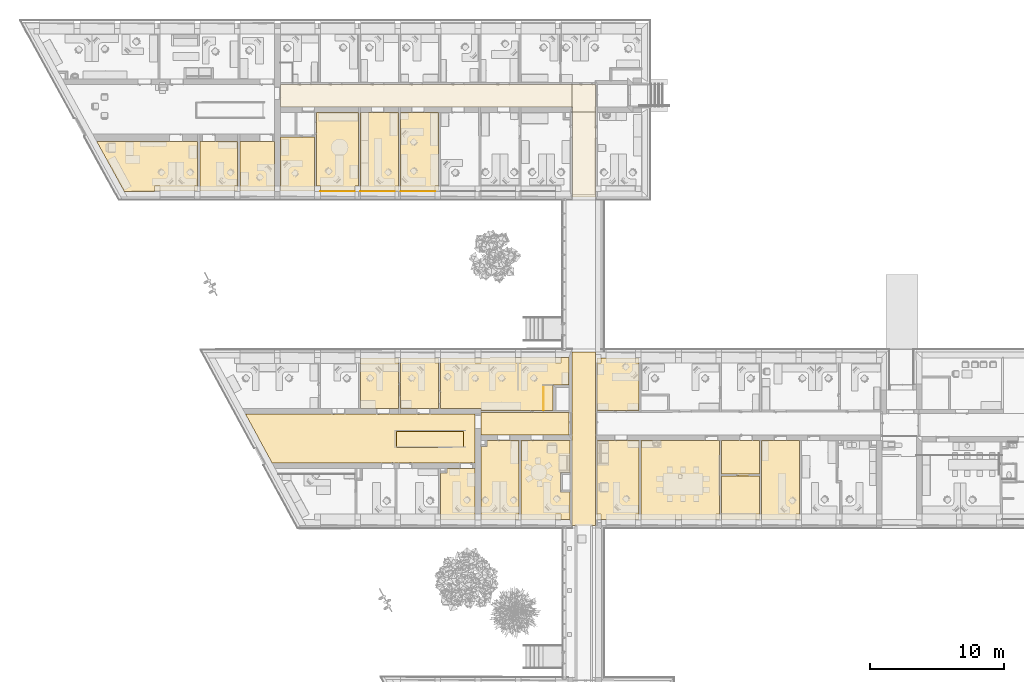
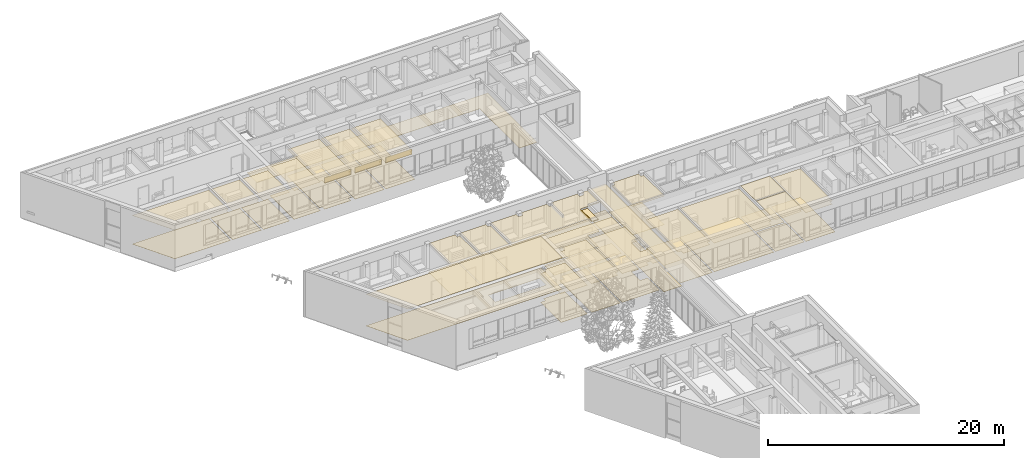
# One storey, part 106 of 194: 50 coverings, 1 opening.
"""IFC2X3 building model written with IfcOpenShell, lengths in millimetres."""

import ifcopenshell
import ifcopenshell.guid

model = None  # the IFC model being written
_history = None  # IfcOwnerHistory: only IFC2X3 demands one
_inside = {}  # id of a spatial element -> (the spatial element, [elements in it])
_under = {}  # id of a project, library or spatial element -> (it, [spatial elements below it])
_declared = {}  # id of a project -> (the project, [libraries it declares])
_typed = {}  # id of a type object -> (the type object, [elements of that type])
_made_of = {}  # id of a material, layer set ... -> (it, [elements and type objects made of it])


def new_model(schema):
    """Start an empty IFC model of exactly this schema.

    Asked for "IFC4X3", IfcOpenShell would pick the latest addendum, in which some entities
    have other attributes; the version numbers below select the first issue.
    IFC2X3 requires an IfcOwnerHistory on every rooted entity: one is made here for all.
    """
    global model, _history
    if schema == "IFC4X3":
        model = ifcopenshell.file(schema_version=(4, 3, 0, 0))
    else:
        model = ifcopenshell.file(schema=schema)
    _inside.clear()
    _under.clear()
    _declared.clear()
    _typed.clear()
    _made_of.clear()
    _history = None
    if model.schema == "IFC2X3":
        org = make("IfcOrganization", Name="unknown")
        user = make(
            "IfcPersonAndOrganization",
            ThePerson=make("IfcPerson", FamilyName="unknown"),
            TheOrganization=org,
        )
        app = make(
            "IfcApplication",
            ApplicationDeveloper=org,
            Version="unknown",
            ApplicationFullName="unknown",
            ApplicationIdentifier="unknown",
        )
        _history = make(
            "IfcOwnerHistory",
            OwningUser=user,
            OwningApplication=app,
            ChangeAction="ADDED",
            CreationDate=0,
        )
    return model


def make(cls, **values):
    """One entity of the class cls with the attributes given. An attribute that is None is left unset."""
    return model.create_entity(
        cls, **{name: value for name, value in values.items() if value is not None}
    )


def entity(cls, *values):
    """Any entity or typed value of the class cls, its attributes in the order of the schema. None: left unset."""
    e = model.create_entity(cls)
    for i, value in enumerate(values):
        if value is not None:
            e[i] = value
    return e


def rooted(cls, **values):
    """An entity with a GlobalId (a new one), such as an element, a storey or a relation."""
    return make(cls, GlobalId=ifcopenshell.guid.new(), OwnerHistory=_history, **values)


def si_unit(unit_type, name, prefix=None):
    """IfcSIUnit, for example si_unit("LENGTHUNIT", "METRE", prefix="MILLI")."""
    return make("IfcSIUnit", UnitType=unit_type, Prefix=prefix, Name=name)


def converted_unit(unit_type, name, factor, base, dimensions=None, offset=None):
    """IfcConversionBasedUnit, such as the inch: factor (a typed value) times the base unit."""
    return make(
        "IfcConversionBasedUnit"
        if offset is None
        else "IfcConversionBasedUnitWithOffset",
        ConversionOffset=offset,
        Dimensions=None
        if dimensions is None
        else entity("IfcDimensionalExponents", *dimensions),
        UnitType=unit_type,
        Name=name,
        ConversionFactor=make(
            "IfcMeasureWithUnit", ValueComponent=factor, UnitComponent=base
        ),
    )


def derived_unit(unit_type, elements):
    """IfcDerivedUnit: a product of units, each with its exponent."""
    return make(
        "IfcDerivedUnit",
        Elements=[
            make("IfcDerivedUnitElement", Unit=unit, Exponent=power)
            for unit, power in elements
        ],
        UnitType=unit_type,
    )


def money_unit(currency):
    """IfcMonetaryUnit."""
    return make("IfcMonetaryUnit", Currency=currency)


def assignment(units):
    """IfcUnitAssignment: the units of a project."""
    return None if units is None else make("IfcUnitAssignment", Units=units)


def point(xyz):
    """IfcCartesianPoint."""
    return None if xyz is None else make("IfcCartesianPoint", Coordinates=xyz)


def direction(xyz):
    """IfcDirection."""
    return None if xyz is None else make("IfcDirection", DirectionRatios=xyz)


def frame(location, z_axis=None, x_axis=None):
    """IfcAxis2Placement3D, a coordinate frame: its origin and axes. An axis left out is left unset."""
    return make(
        "IfcAxis2Placement3D",
        Location=point(location),
        Axis=direction(z_axis),
        RefDirection=direction(x_axis),
    )


def origin_with_axes():
    """The frame at (0, 0, 0) with the z axis (0, 0, 1) and the x axis (1, 0, 0) written out."""
    return frame((0.0, 0.0, 0.0), z_axis=(0.0, 0.0, 1.0), x_axis=(1.0, 0.0, 0.0))


def place(relative_to, where):
    """IfcLocalPlacement: puts the frame where relative to a parent placement (None: the world)."""
    return make(
        "IfcLocalPlacement", PlacementRelTo=relative_to, RelativePlacement=where
    )


def context(
    kind, dimensions, precision=None, world=None, true_north=None, identifier=None
):
    """IfcGeometricRepresentationContext, for example the 3D "Model" context."""
    return make(
        "IfcGeometricRepresentationContext",
        ContextIdentifier=identifier,
        ContextType=kind,
        CoordinateSpaceDimension=dimensions,
        Precision=precision,
        WorldCoordinateSystem=world,
        TrueNorth=true_north,
    )


def subcontext(parent, identifier, kind, view, scale=None):
    """IfcGeometricRepresentationSubContext, for example "Body" below "Model"."""
    return make(
        "IfcGeometricRepresentationSubContext",
        ContextIdentifier=identifier,
        ContextType=kind,
        ParentContext=parent,
        TargetScale=scale,
        TargetView=view,
    )


def project(units=None, contexts=None):
    """IfcProject with its units and contexts."""
    return rooted(
        "IfcProject",
        Name="project",
        RepresentationContexts=contexts,
        UnitsInContext=assignment(units),
    )


def spatial(cls, under=None, at=None, **own):
    """A site, building, storey or space (cls), placed at a placement, below another one or the project."""
    s = rooted(cls, ObjectPlacement=at, **own)
    if under is not None:
        _under.setdefault(under.id(), (under, []))[1].append(s)
    return s


def polyline(points):
    """IfcPolyline through the points."""
    return make("IfcPolyline", Points=[point(p) for p in points])


def outline(outer, holes=None, kind="AREA"):
    """IfcArbitraryClosedProfileDef: a profile drawn as a closed curve; with holes, ...WithVoids."""
    if holes is None:
        return make("IfcArbitraryClosedProfileDef", ProfileType=kind, OuterCurve=outer)
    return make(
        "IfcArbitraryProfileDefWithVoids",
        ProfileType=kind,
        OuterCurve=outer,
        InnerCurves=holes,
    )


def extrude(swept, where, along, depth):
    """IfcExtrudedAreaSolid: the profile swept, set in the frame where, extruded along a direction by depth."""
    return make(
        "IfcExtrudedAreaSolid",
        SweptArea=swept,
        Position=where,
        ExtrudedDirection=direction(along),
        Depth=depth,
    )


def shape(context_of_items, identifier, shape_type, items):
    """IfcShapeRepresentation: the items that make up one representation, for example the "Body"."""
    return make(
        "IfcShapeRepresentation",
        ContextOfItems=context_of_items,
        RepresentationIdentifier=identifier,
        RepresentationType=shape_type,
        Items=items,
    )


def material(Name=None, Category=None):
    """IfcMaterial."""
    return make("IfcMaterial", Name=Name, Category=Category)


def made_of(thing, what):
    """Note that an element or type object is made of a material, layer set ...; save() writes the relation."""
    if what is not None:
        _made_of.setdefault(what.id(), (what, []))[1].append(thing)
    return thing


def type_object(cls, material=None, **own):
    """A type object (cls), such as IfcWallType, which elements share."""
    return made_of(rooted(cls, **own), material)


def element(
    cls,
    number,
    at=None,
    inside=None,
    cuts=None,
    type_object=None,
    material=None,
    context=None,
    identifier="Body",
    shape_type=None,
    held_by="IfcProductDefinitionShape",
    body=None,
    shapes=None,
    **own,
):
    """One element of the class cls, such as IfcWall. Its Tag is "e" and its number.

    at: its placement. inside: the storey or other place that contains it. cuts: it is an
    opening in that element (IfcRelVoidsElement). A single representation is given by context,
    identifier, shape_type and body (its items); several are given by shapes. held_by: the class
    of the entity that holds the representations. save() writes the other relations.
    """
    e = rooted(cls, Tag="e%d" % number, ObjectPlacement=at, **own)
    if body is not None:
        shapes = [shape(context, identifier, shape_type, body)]
    if shapes is not None:
        e.Representation = make(held_by, Representations=shapes)
    if inside is not None:
        _inside.setdefault(inside.id(), (inside, []))[1].append(e)
    if cuts is not None:
        rooted(
            "IfcRelVoidsElement", RelatingBuildingElement=cuts, RelatedOpeningElement=e
        )
    if type_object is not None:
        _typed.setdefault(type_object.id(), (type_object, []))[1].append(e)
    return made_of(e, material)


def aggregate(whole, parts):
    """IfcRelAggregates: a whole, such as a stair, and the parts it consists of."""
    return rooted("IfcRelAggregates", RelatingObject=whole, RelatedObjects=parts)


def save(model, path):
    """Write the relations noted so far, then the file.

    IfcRelAggregates (storeys below a building ...), IfcRelContainedInSpatialStructure (elements
    in a storey), IfcRelDefinesByType, IfcRelAssociatesMaterial and IfcRelDeclares: one each for
    every whole, place, type object, material and project.
    """
    for whole, parts in _under.values():
        aggregate(whole, parts)
    for where, things in _inside.values():
        rooted(
            "IfcRelContainedInSpatialStructure",
            RelatedElements=things,
            RelatingStructure=where,
        )
    for kind, things in _typed.values():
        rooted("IfcRelDefinesByType", RelatedObjects=things, RelatingType=kind)
    for what, things in _made_of.values():
        rooted("IfcRelAssociatesMaterial", RelatedObjects=things, RelatingMaterial=what)
    for by, libraries in _declared.values():
        rooted("IfcRelDeclares", RelatingContext=by, RelatedDefinitions=libraries)
    model.write(path)


model = new_model("IFC2X3")

# Units and contexts
model_context = context("Model", 3, precision=1e-05, world=origin_with_axes(), true_north=direction((0.0, 1.0)))
body_context = subcontext(model_context, "Body", "Model", "MODEL_VIEW")
ifc_project = project(units=[si_unit("LENGTHUNIT", "METRE", prefix="MILLI"), si_unit("AREAUNIT", "SQUARE_METRE"), si_unit("VOLUMEUNIT", "CUBIC_METRE"), converted_unit("PLANEANGLEUNIT", "DEGREE", entity("IfcPlaneAngleMeasure", 0.0174532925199), si_unit("PLANEANGLEUNIT", "RADIAN"), dimensions=[0, 0, 0, 0, 0, 0, 0]), si_unit("SOLIDANGLEUNIT", "STERADIAN"), money_unit("EUR"), converted_unit("TIMEUNIT", "Year", entity("IfcTimeMeasure", 31556926.0), si_unit("TIMEUNIT", "SECOND"), dimensions=[0, 0, 1, 0, 0, 0, 0]), si_unit("MASSUNIT", "GRAM", prefix="KILO"), si_unit("THERMODYNAMICTEMPERATUREUNIT", "DEGREE_CELSIUS"), si_unit("LUMINOUSINTENSITYUNIT", "LUMEN"), si_unit("ENERGYUNIT", "JOULE", prefix="MEGA"), derived_unit("THERMALCONDUCTANCEUNIT", [(si_unit("POWERUNIT", "WATT"), 1), (si_unit("LENGTHUNIT", "METRE"), -1), (si_unit("THERMODYNAMICTEMPERATUREUNIT", "KELVIN"), -1)]), derived_unit("SPECIFICHEATCAPACITYUNIT", [(si_unit("ENERGYUNIT", "JOULE"), 1), (si_unit("MASSUNIT", "GRAM", prefix="KILO"), -1), (si_unit("THERMODYNAMICTEMPERATUREUNIT", "KELVIN"), -1)]), derived_unit("MASSDENSITYUNIT", [(si_unit("MASSUNIT", "GRAM", prefix="KILO"), 1), (si_unit("VOLUMEUNIT", "CUBIC_METRE"), -1)])], contexts=[model_context])

# Site, building, storey
site_placement = place(None, origin_with_axes())
site = spatial("IfcSite", under=ifc_project, at=site_placement, Name="Site", CompositionType="ELEMENT")
building_placement = place(site_placement, origin_with_axes())
building = spatial("IfcBuilding", under=site, at=building_placement, Name="Building", CompositionType="ELEMENT")
storey_placement = place(building_placement, frame((0.0, 0.0, 3000.0), z_axis=(0.0, 0.0, 1.0), x_axis=(1.0, 0.0, 0.0)))
storey = spatial("IfcBuildingStorey", under=building, at=storey_placement, Name="2 KORRUS", CompositionType="ELEMENT", Elevation=3000.0)

# Coverings
ifc_material_1 = material(Name="Värv")
covering_type_1 = type_object("IfcCoveringType", Name="L-3", PredefinedType="CLADDING")
covering_1_placement = place(storey_placement, frame((15544.3591021, 39014.3351234, 3250.0), z_axis=(0.0, 0.0, 1.0), x_axis=(1.0, 0.0, 0.0)))
element("IfcCovering", 1, at=covering_1_placement, inside=storey, type_object=covering_type_1, material=ifc_material_1, Name="Konstruktiivne lagi lauspahtel, värvitud", PredefinedType="CLADDING", context=body_context, shape_type="SweptSolid", body=[
    extrude(outline(polyline([(0.0, 0.0), (15191.0096542, 0.0), (15191.0096542, 3655.87204868), (-1979.76658338, 3642.18206469), (0.0, 0.0)])), origin_with_axes(), (0.0, 0.0, 1.0), 1.0),
])
covering_type_2 = type_object("IfcCoveringType", Name="L-5", PredefinedType="CLADDING")
covering_2_placement = place(storey_placement, frame((49156.85302, 34782.3381612, 3250.0), z_axis=(0.0, 0.0, 1.0), x_axis=(1.0, 0.0, 0.0)))
element("IfcCovering", 2, at=covering_2_placement, inside=storey, type_object=covering_type_2, material=ifc_material_1, Name="Konstruktiivne lagi kaetud tolmutõkkega ja värvitud", PredefinedType="CLADDING", context=body_context, shape_type="SweptSolid", body=[
    extrude(outline(polyline([(0.0, 0.0), (2577.78234245, 0.219781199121), (2577.74832166, 399.24470683), (2848.32124632, 399.29792926), (2848.32124632, 3249.28610862), (0.0, 3249.28610862), (0.0, 0.0)])), origin_with_axes(), (0.0, 0.0, 1.0), 1.0),
])
covering_3_placement = place(storey_placement, frame((52005.1742663, 38031.6242698, 3250.0), z_axis=(0.0, 0.0, 1.0), x_axis=(1.0, 0.0, 0.0)))
element("IfcCovering", 3, at=covering_3_placement, inside=storey, type_object=covering_type_2, material=ifc_material_1, Name="Konstruktiivne lagi kaetud tolmutõkkega ja värvitud", PredefinedType="CLADDING", context=body_context, shape_type="SweptSolid", body=[
    extrude(outline(polyline([(0.0, 0.0), (0.0, 2653.11876868), (-543.213405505, 2653.11876868), (-543.212831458, 2649.73164058), (-2848.32124632, 2649.99996692), (-2848.32124632, 0.0), (0.0, 0.0)])), origin_with_axes(), (0.0, 0.0, 1.0), 1.0),
])
ifc_material_2 = material(Name="Betoon - Ol.Olev konstruktsioon")
covering_type_3 = type_object("IfcCoveringType", Name="P-3", PredefinedType="NOTDEFINED")
covering_4_placement = place(storey_placement, frame((49155.1743177, 34782.5810042, 0.0), z_axis=(0.0, 0.0, 1.0), x_axis=(1.0, 0.0, 0.0)))
element("IfcCovering", 4, at=covering_4_placement, inside=storey, type_object=covering_type_3, material=ifc_material_2, Name="Betoon - Ol.Olev konstruktsioon", PredefinedType="NOTDEFINED", context=body_context, shape_type="SweptSolid", body=[
    extrude(outline(polyline([(0.0, 0.0), (2850.0, 0.0), (2850.0, 3249.96722732), (0.0, 3249.96722732), (0.0, 0.0)])), frame((0.0, 0.0, -2.0), z_axis=(0.0, 0.0, 1.0), x_axis=(1.0, 0.0, 0.0)), (0.0, 0.0, 1.0), 2.0),
])
covering_5_placement = place(storey_placement, frame((49155.1743177, 38181.6242698, 0.0), z_axis=(0.0, 0.0, 1.0), x_axis=(1.0, 0.0, 0.0)))
element("IfcCovering", 5, at=covering_5_placement, inside=storey, type_object=covering_type_3, material=ifc_material_2, Name="Betoon - Ol.Olev konstruktsioon", PredefinedType="NOTDEFINED", context=body_context, shape_type="SweptSolid", body=[
    extrude(outline(polyline([(0.0, 0.0), (2850.0, 0.0), (2850.0, 2500.0), (0.0, 2500.0), (0.0, 0.0)])), frame((0.0, 0.0, -2.0), z_axis=(0.0, 0.0, 1.0), x_axis=(1.0, 0.0, 0.0)), (0.0, 0.0, 1.0), 2.0),
])
ifc_material_3 = material(Name="Kipsplaat")
covering_type_4 = type_object("IfcCoveringType", Name="L-4", PredefinedType="CEILING")
covering_6_placement = place(storey_placement, frame((37983.8520141, 47321.3064056, 2700.0), z_axis=(0.0, 0.0, 1.0), x_axis=(1.0, 0.0, 0.0)))
element("IfcCovering", 6, at=covering_6_placement, inside=storey, type_object=covering_type_4, material=ifc_material_3, Name="Ripplagi", PredefinedType="CEILING", context=body_context, shape_type="SweptSolid", body=[
    extrude(outline(polyline([(0.0, 0.0), (0.0, -12970.0619024), (1751.32228266, -12970.0619024), (1751.32228266, 0.0), (0.0, 0.0)])), origin_with_axes(), (0.0, 0.0, 1.0), 15.0),
])
covering_7_placement = place(storey_placement, frame((31155.3687563, 41101.6242698, 2700.0), z_axis=(0.0, 0.0, 1.0), x_axis=(1.0, 0.0, 0.0)))
element("IfcCovering", 7, at=covering_7_placement, inside=storey, type_object=covering_type_4, material=ifc_material_3, Name="Ripplagi", PredefinedType="CEILING", context=body_context, shape_type="SweptSolid", body=[
    extrude(outline(polyline([(0.0, 0.0), (6578.4832578, 0.0), (6578.4832578, 1698.92874086), (0.0, 1698.92874086), (0.0, 0.0)])), origin_with_axes(), (0.0, 0.0, 1.0), 15.0),
])
covering_type_5 = type_object("IfcCoveringType", Name="P-2", PredefinedType="NOTDEFINED")
covering_8_placement = place(storey_placement, frame((18884.303544, 59737.905051, 0.0), z_axis=(0.0, 0.0, 1.0), x_axis=(1.0, 0.0, 0.0)))
element("IfcCovering", 8, at=covering_8_placement, inside=storey, type_object=covering_type_5, material=ifc_material_2, Name="Betoon - Ol.Olev konstruktsioon", PredefinedType="NOTDEFINED", context=body_context, shape_type="SweptSolid", body=[
    extrude(outline(polyline([(0.0, 0.0), (267.831566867, 0.0), (267.831566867, -401.539654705), (2849.99949144, -401.132490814), (2849.99949144, 0.360075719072), (3123.41984658, 0.360075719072), (3120.0579437, 5472.12330483), (0.303009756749, 5472.12330483), (0.0, 0.0)])), frame((0.0, 0.0, -20.0), z_axis=(0.0, 0.0, 1.0), x_axis=(1.0, 0.0, 0.0)), (0.0, 0.0, 1.0), 20.0),
])
covering_9_placement = place(storey_placement, frame((52155.1743177, 34782.5579891, 0.0), z_axis=(0.0, 0.0, 1.0), x_axis=(1.0, 0.0, 0.0)))
element("IfcCovering", 9, at=covering_9_placement, inside=storey, type_object=covering_type_5, material=ifc_material_2, Name="Betoon - Ol.Olev konstruktsioon", PredefinedType="NOTDEFINED", context=body_context, shape_type="SweptSolid", body=[
    extrude(outline(polyline([(0.0, 0.0), (2850.43213599, 0.0), (2850.43213599, 5899.06628073), (0.0, 5899.06628073), (0.0, 0.0)])), frame((0.0, 0.0, -20.0), z_axis=(0.0, 0.0, 1.0), x_axis=(1.0, 0.0, 0.0)), (0.0, 0.0, 1.0), 20.0),
])
covering_10_placement = place(storey_placement, frame((39855.1743177, 34781.8138135, 0.0), z_axis=(0.0, 0.0, 1.0), x_axis=(1.0, 0.0, 0.0)))
element("IfcCovering", 10, at=covering_10_placement, inside=storey, type_object=covering_type_5, material=ifc_material_2, Name="Betoon - Ol.Olev konstruktsioon", PredefinedType="NOTDEFINED", context=body_context, shape_type="SweptSolid", body=[
    extrude(outline(polyline([(0.0, 0.0), (3150.04571867, 0.0), (3150.04571867, 5899.81045634), (0.0, 5899.81045634), (0.0, 0.0)])), frame((0.0, 0.0, -20.0), z_axis=(0.0, 0.0, 1.0), x_axis=(1.0, 0.0, 0.0)), (0.0, 0.0, 1.0), 20.0),
])
covering_11_placement = place(storey_placement, frame((39854.3292711, 42953.2126594, 0.0), z_axis=(0.0, 0.0, 1.0), x_axis=(1.0, 0.0, 0.0)))
element("IfcCovering", 11, at=covering_11_placement, inside=storey, type_object=covering_type_5, material=ifc_material_2, Name="Betoon - Ol.Olev konstruktsioon", PredefinedType="NOTDEFINED", context=body_context, shape_type="SweptSolid", body=[
    extrude(outline(polyline([(0.0, 0.0), (3150.59242695, 0.0), (3150.59242695, 3919.39371275), (0.0, 3919.39371275), (0.0, 0.0)])), frame((0.0, 0.0, -20.0), z_axis=(0.0, 0.0, 1.0), x_axis=(1.0, 0.0, 0.0)), (0.0, 0.0, 1.0), 20.0),
])
covering_12_placement = place(storey_placement, frame((34155.2384902, 40681.6242698, 0.0), z_axis=(0.0, 0.0, 1.0), x_axis=(1.0, 0.0, 0.0)))
element("IfcCovering", 12, at=covering_12_placement, inside=storey, type_object=covering_type_5, material=ifc_material_2, Name="Betoon - Ol.Olev konstruktsioon", PredefinedType="NOTDEFINED", context=body_context, shape_type="SweptSolid", body=[
    extrude(outline(polyline([(0.0, 0.0), (-0.0688462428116, -5900.62418925), (3678.61354867, -5900.31064429), (3678.61354867, -3843.19150329), (2948.67183069, -3843.19150329), (2948.67183069, -2366.65949831), (3678.61354867, -2366.65949831), (3678.61354867, 0.0), (0.0, 0.0)])), frame((0.0, 0.0, -20.0), z_axis=(0.0, 0.0, 1.0), x_axis=(1.0, 0.0, 0.0)), (0.0, 0.0, 1.0), 20.0),
])
covering_13_placement = place(storey_placement, frame((31155.3687563, 34780.744366, 0.0), z_axis=(0.0, 0.0, 1.0), x_axis=(1.0, 0.0, 0.0)))
element("IfcCovering", 13, at=covering_13_placement, inside=storey, type_object=covering_type_5, material=ifc_material_2, Name="Betoon - Ol.Olev konstruktsioon", PredefinedType="NOTDEFINED", context=body_context, shape_type="SweptSolid", body=[
    extrude(outline(polyline([(0.0, 0.0), (2849.8008482, 0.24295071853), (2849.86969743, 5900.87990378), (478.195845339, 5900.87990378), (478.195845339, 5447.82368108), (0.0, 5447.82368108), (0.0, 0.0)])), frame((0.0, 0.0, -20.0), z_axis=(0.0, 0.0, 1.0), x_axis=(1.0, 0.0, 0.0)), (0.0, 0.0, 1.0), 20.0),
])
covering_14_placement = place(storey_placement, frame((28152.7178473, 38245.8772154, 0.0), z_axis=(0.0, 0.0, 1.0), x_axis=(1.0, 0.0, 0.0)))
element("IfcCovering", 14, at=covering_14_placement, inside=storey, type_object=covering_type_5, material=ifc_material_2, Name="Betoon - Ol.Olev konstruktsioon", PredefinedType="NOTDEFINED", context=body_context, shape_type="SweptSolid", body=[
    extrude(outline(polyline([(0.0, 0.0), (2.77805976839, -3465.38857006), (2582.65088628, -3465.16863488), (2582.65088628, 348.457907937), (471.09012599, 348.457907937), (471.09012599, 0.0), (0.0, 0.0)])), frame((0.0, 0.0, -20.0), z_axis=(0.0, 0.0, 1.0), x_axis=(1.0, 0.0, 0.0)), (0.0, 0.0, 1.0), 20.0),
])
covering_15_placement = place(storey_placement, frame((37733.8520141, 46890.9046765, 0.0), z_axis=(0.0, 0.0, 1.0), x_axis=(1.0, 0.0, 0.0)))
element("IfcCovering", 15, at=covering_15_placement, inside=storey, type_object=covering_type_5, material=ifc_material_2, Name="Betoon - Ol.Olev konstruktsioon", PredefinedType="NOTDEFINED", context=body_context, shape_type="SweptSolid", body=[
    extrude(outline(polyline([(0.0, 0.0), (-9579.52613413, -15.3713389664), (-9579.48659343, -3802.75503578), (-6578.81831142, -3800.36275223), (-6578.70682663, -3940.35166586), (-1171.16775782, -3940.35166586), (-1171.16775782, -2052.21756935), (0.0, -2052.21756935), (0.0, 0.0)])), frame((0.0, 0.0, -20.0), z_axis=(0.0, 0.0, 1.0), x_axis=(1.0, 0.0, 0.0)), (0.0, 0.0, 1.0), 20.0),
])
covering_16_placement = place(storey_placement, frame((28004.3259069, 46875.2926718, 0.0), z_axis=(0.0, 0.0, 1.0), x_axis=(1.0, 0.0, 0.0)))
element("IfcCovering", 16, at=covering_16_placement, inside=storey, type_object=covering_type_5, material=ifc_material_2, Name="Betoon - Ol.Olev konstruktsioon", PredefinedType="NOTDEFINED", context=body_context, shape_type="SweptSolid", body=[
    extrude(outline(polyline([(0.0, 0.0), (-2850.2454115, -4.57349615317), (-2847.22767879, -3789.5327736), (0.0395279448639, -3787.26268373), (0.0, 0.0)])), frame((0.0, 0.0, -20.0), z_axis=(0.0, 0.0, 1.0), x_axis=(1.0, 0.0, 0.0)), (0.0, 0.0, 1.0), 20.0),
])
covering_17_placement = place(storey_placement, frame((25004.0806463, 46870.4784684, 0.0), z_axis=(0.0, 0.0, 1.0), x_axis=(1.0, 0.0, 0.0)))
element("IfcCovering", 17, at=covering_17_placement, inside=storey, type_object=covering_type_5, material=ifc_material_2, Name="Betoon - Ol.Olev konstruktsioon", PredefinedType="NOTDEFINED", context=body_context, shape_type="SweptSolid", body=[
    extrude(outline(polyline([(0.0, 0.0), (-2849.71951611, -4.57266331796), (-2849.71951611, -3787.11261933), (3.01761129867, -3784.8381667), (0.0, 0.0)])), frame((0.0, 0.0, -20.0), z_axis=(0.0, 0.0, 1.0), x_axis=(1.0, 0.0, 0.0)), (0.0, 0.0, 1.0), 20.0),
])
covering_18_placement = place(storey_placement, frame((28000.6067842, 65210.0283559, 0.0), z_axis=(0.0, 0.0, 1.0), x_axis=(1.0, 0.0, 0.0)))
element("IfcCovering", 18, at=covering_18_placement, inside=storey, type_object=covering_type_5, material=ifc_material_2, Name="Betoon - Ol.Olev konstruktsioon", PredefinedType="NOTDEFINED", context=body_context, shape_type="SweptSolid", body=[
    extrude(outline(polyline([(0.0, 0.0), (-2849.65439851, 0.0), (-2846.04610959, -5872.81575692), (3.6023381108, -5872.41355242), (0.0, 0.0)])), frame((0.0, 0.0, -20.0), z_axis=(0.0, 0.0, 1.0), x_axis=(1.0, 0.0, 0.0)), (0.0, 0.0, 1.0), 20.0),
])
covering_19_placement = place(storey_placement, frame((25000.95236, 65210.0283559, 0.0), z_axis=(0.0, 0.0, 1.0), x_axis=(1.0, 0.0, 0.0)))
element("IfcCovering", 19, at=covering_19_placement, inside=storey, type_object=covering_type_5, material=ifc_material_2, Name="Betoon - Ol.Olev konstruktsioon", PredefinedType="NOTDEFINED", context=body_context, shape_type="SweptSolid", body=[
    extrude(outline(polyline([(0.0, 0.0), (-2846.59082125, 0.0), (-2842.98227248, -5873.23870457), (3.60828622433, -5872.8369087), (0.0, 0.0)])), frame((0.0, 0.0, -20.0), z_axis=(0.0, 0.0, 1.0), x_axis=(1.0, 0.0, 0.0)), (0.0, 0.0, 1.0), 20.0),
])
covering_20_placement = place(storey_placement, frame((16157.2256086, 59335.9426885, 0.0), z_axis=(0.0, 0.0, 1.0), x_axis=(1.0, 0.0, 0.0)))
element("IfcCovering", 20, at=covering_20_placement, inside=storey, type_object=covering_type_5, material=ifc_material_2, Name="Betoon - Ol.Olev konstruktsioon", PredefinedType="NOTDEFINED", context=body_context, shape_type="SweptSolid", body=[
    extrude(outline(polyline([(0.0, 0.0), (2576.74705792, 0.363690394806), (2577.2804705, 4060.52946641), (0.000787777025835, 4060.52946641), (0.0, 0.0)])), frame((0.0, 0.0, -20.0), z_axis=(0.0, 0.0, 1.0), x_axis=(1.0, 0.0, 0.0)), (0.0, 0.0, 1.0), 20.0),
])
covering_21_placement = place(storey_placement, frame((15737.2263372, 63045.3928576, 0.0), z_axis=(0.0, 0.0, 1.0), x_axis=(1.0, 0.0, 0.0)))
element("IfcCovering", 21, at=covering_21_placement, inside=storey, type_object=covering_type_5, material=ifc_material_2, Name="Betoon - Ol.Olev konstruktsioon", PredefinedType="NOTDEFINED", context=body_context, shape_type="SweptSolid", body=[
    extrude(outline(polyline([(0.0, 0.0), (-2579.542912, 0.0), (-2578.91812077, -3709.8734452), (-0.000718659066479, -3709.50947197), (0.0, 0.0)])), frame((0.0, 0.0, -20.0), z_axis=(0.0, 0.0, 1.0), x_axis=(1.0, 0.0, 0.0)), (0.0, 0.0, 1.0), 20.0),
])
covering_22_placement = place(storey_placement, frame((10155.0293908, 63045.3928576, 0.0), z_axis=(0.0, 0.0, 1.0), x_axis=(1.0, 0.0, 0.0)))
element("IfcCovering", 22, at=covering_22_placement, inside=storey, type_object=covering_type_5, material=ifc_material_2, Name="Betoon - Ol.Olev konstruktsioon", PredefinedType="NOTDEFINED", context=body_context, shape_type="SweptSolid", body=[
    extrude(outline(polyline([(0.0, 0.0), (-0.817872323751, -3710.2974523), (2803.27886956, -3709.90164699), (2802.65400693, 0.0), (0.0, 0.0)])), frame((0.0, 0.0, -20.0), z_axis=(0.0, 0.0, 1.0), x_axis=(1.0, 0.0, 0.0)), (0.0, 0.0, 1.0), 20.0),
])
covering_23_placement = place(storey_placement, frame((2437.17722724, 63045.392878, 0.0), z_axis=(0.0, 0.0, 1.0), x_axis=(1.0, 0.0, 0.0)))
element("IfcCovering", 23, at=covering_23_placement, inside=storey, type_object=covering_type_5, material=ifc_material_2, Name="Betoon - Ol.Olev konstruktsioon", PredefinedType="NOTDEFINED", context=body_context, shape_type="SweptSolid", body=[
    extrude(outline(polyline([(0.0, 0.0), (2044.8155038, -3711.09808622), (7517.0342682, -3710.32567499), (7517.85216151, 0.0), (0.0, 0.0)])), frame((0.0, 0.0, -20.0), z_axis=(0.0, 0.0, 1.0), x_axis=(1.0, 0.0, 0.0)), (0.0, 0.0, 1.0), 20.0),
])
covering_type_6 = type_object("IfcCoveringType", Name="L-1", PredefinedType="CEILING")
covering_24_placement = place(storey_placement, frame((9955.02938875, 63045.3928669, 2950.0), z_axis=(0.0, 0.0, 1.0), x_axis=(1.0, 0.0, 0.0)))
element("IfcCovering", 24, at=covering_24_placement, inside=storey, type_object=covering_type_6, material=ifc_material_3, Name="Ripplagi. Akustine kipsplaat", PredefinedType="CEILING", context=body_context, shape_type="SweptSolid", body=[
    extrude(outline(polyline([(0.0, 0.0), (-7517.85216151, -9.32050170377e-06), (-5474.51990292, -3711.09826471), (-3221.06327673, -3730.26973121), (-3221.06327673, -3310.26973121), (-2801.06327673, -3310.26973121), (-2801.06327978, -3710.72092513), (-221.063305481, -3710.3567763), (-220.72538616, -3310.26973121), (-0.729703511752, -3310.26979195), (0.0, 0.0)])), origin_with_axes(), (0.0, 0.0, 1.0), 20.0),
])
covering_25_placement = place(storey_placement, frame((10155.0293908, 63045.3928576, 2950.0), z_axis=(0.0, 0.0, 1.0), x_axis=(1.0, 0.0, 0.0)))
element("IfcCovering", 25, at=covering_25_placement, inside=storey, type_object=covering_type_6, material=ifc_material_3, Name="Ripplagi. Akustine kipsplaat", PredefinedType="CEILING", context=body_context, shape_type="SweptSolid", body=[
    extrude(outline(polyline([(0.0, 0.0), (-0.817872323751, -3710.2974523), (2579.60963179, -3709.93321847), (2579.61250233, -3310.26972189), (2803.21151078, -3310.26974868), (2802.65400693, 0.0), (0.0, 0.0)])), origin_with_axes(), (0.0, 0.0, 1.0), 20.0),
])
covering_26_placement = place(storey_placement, frame((15737.2263372, 63045.3928576, 2950.0), z_axis=(0.0, 0.0, 1.0), x_axis=(1.0, 0.0, 0.0)))
element("IfcCovering", 26, at=covering_26_placement, inside=storey, type_object=covering_type_6, material=ifc_material_3, Name="Ripplagi. Akustine kipsplaat", PredefinedType="CEILING", context=body_context, shape_type="SweptSolid", body=[
    extrude(outline(polyline([(0.0, 0.0), (-2579.542912, 0.0), (-2578.91812077, -3709.8734452), (-0.000718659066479, -3709.50947197), (0.0, 0.0)])), origin_with_axes(), (0.0, 0.0, 1.0), 20.0),
])
covering_27_placement = place(storey_placement, frame((16157.2256086, 59335.9426885, 2950.0), z_axis=(0.0, 0.0, 1.0), x_axis=(1.0, 0.0, 0.0)))
element("IfcCovering", 27, at=covering_27_placement, inside=storey, type_object=covering_type_6, material=ifc_material_3, Name="Ripplagi. Akustine kipsplaat", PredefinedType="CEILING", context=body_context, shape_type="SweptSolid", body=[
    extrude(outline(polyline([(0.0, 0.0), (2577.07889695, 0.363730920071), (2577.30373994, 4060.52944679), (0.00084709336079, 4060.52944679), (0.0, 0.0)])), origin_with_axes(), (0.0, 0.0, 1.0), 20.0),
])
covering_28_placement = place(storey_placement, frame((18884.3036142, 59740.1748062, 2699.7163119), z_axis=(0.0, 0.0, 1.0), x_axis=(1.0, 0.0, 0.0)))
element("IfcCovering", 28, at=covering_28_placement, inside=storey, type_object=covering_type_6, material=ifc_material_3, Name="Ripplagi. Akustine kipsplaat", PredefinedType="CEILING", context=body_context, shape_type="SweptSolid", body=[
    extrude(outline(polyline([(0.0, 0.0), (269.999805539, -3.48066876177), (269.861414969, -403.807745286), (2849.66184319, -403.445000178), (2849.9993942, -1.90966702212), (3123.41976974, -1.90968815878), (3120.05793203, 5469.85354966), (0.302962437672, 5469.85354966), (0.0, 0.0)])), origin_with_axes(), (0.0, 0.0, 1.0), 20.0),
])
covering_29_placement = place(storey_placement, frame((25000.95236, 65210.0283559, 2699.7163119), z_axis=(0.0, 0.0, 1.0), x_axis=(1.0, 0.0, 0.0)))
element("IfcCovering", 29, at=covering_29_placement, inside=storey, type_object=covering_type_6, material=ifc_material_3, Name="Ripplagi. Akustine kipsplaat", PredefinedType="CEILING", context=body_context, shape_type="SweptSolid", body=[
    extrude(outline(polyline([(0.0, 0.0), (-2846.59082125, 0.0), (-2842.98227248, -5873.23870458), (-266.987152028, -5872.87512101), (-266.649762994, -5472.34713456), (3.36229396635, -5472.34715352), (0.0, 0.0)])), origin_with_axes(), (0.0, 0.0, 1.0), 20.0),
])
covering_30_placement = place(storey_placement, frame((28000.6067842, 65210.0283559, 2699.7163119), z_axis=(0.0, 0.0, 1.0), x_axis=(1.0, 0.0, 0.0)))
element("IfcCovering", 30, at=covering_30_placement, inside=storey, type_object=covering_type_6, material=ifc_material_3, Name="Ripplagi. Akustine kipsplaat", PredefinedType="CEILING", context=body_context, shape_type="SweptSolid", body=[
    extrude(outline(polyline([(0.0, 0.0), (-2849.65439851, 0.0), (-2846.04610959, -5872.81575692), (-266.641825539, -5872.45169216), (-266.304598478, -5471.92370571), (3.3567116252, -5471.92373744), (0.0, 0.0)])), origin_with_axes(), (0.0, 0.0, 1.0), 20.0),
])
covering_31_placement = place(storey_placement, frame((24734.4888565, 46870.0458811, 2950.0), z_axis=(0.0, 0.0, 1.0), x_axis=(1.0, 0.0, 0.0)))
element("IfcCovering", 31, at=covering_31_placement, inside=storey, type_object=covering_type_6, material=ifc_material_3, Name="Ripplagi. Akustine kipsplaat", PredefinedType="CEILING", context=body_context, shape_type="SweptSolid", body=[
    extrude(outline(polyline([(0.0, 0.0), (-2580.12772628, -4.14007601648), (-2580.12772628, -3786.68003204), (272.609401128, -3784.4055794), (269.909218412, -397.719971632), (-0.159519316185, -397.719988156), (0.0, 0.0)])), origin_with_axes(), (0.0, 0.0, 1.0), 20.0),
])
covering_32_placement = place(storey_placement, frame((27733.8126955, 46874.858607, 2950.0), z_axis=(0.0, 0.0, 1.0), x_axis=(1.0, 0.0, 0.0)))
element("IfcCovering", 32, at=covering_32_placement, inside=storey, type_object=covering_type_6, material=ifc_material_3, Name="Ripplagi. Akustine kipsplaat", PredefinedType="CEILING", context=body_context, shape_type="SweptSolid", body=[
    extrude(outline(polyline([(0.0, 0.0), (-2579.7322002, -4.13943137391), (-2576.71446749, -3789.09870882), (270.552739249, -3786.82861895), (270.517392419, -399.323857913), (0.516641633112, -399.323848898), (0.0, 0.0)])), origin_with_axes(), (0.0, 0.0, 1.0), 20.0),
])
covering_33_placement = place(storey_placement, frame((37733.8520141, 46890.9046765, 2950.0), z_axis=(0.0, 0.0, 1.0), x_axis=(1.0, 0.0, 0.0)))
element("IfcCovering", 33, at=covering_33_placement, inside=storey, type_object=covering_type_6, material=ifc_material_3, Name="Ripplagi. Akustine kipsplaat", PredefinedType="CEILING", context=body_context, shape_type="SweptSolid", body=[
    extrude(outline(polyline([(0.0, 0.0), (-579.551073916, -0.92997696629), (-579.550996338, -400.929924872), (-999.421733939, -400.929717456), (-1000.06248946, -1.60467888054), (-3580.05910195, -5.74454998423), (-3580.05910195, -405.744549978), (-4000.05910195, -405.744549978), (-4000.05476583, -6.41847628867), (-6580.0514444, -10.5583473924), (-6580.05137831, -410.558347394), (-7000.05137831, -410.558347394), (-6998.65956014, -11.2300473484), (-9579.52613413, -15.3713389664), (-9579.48659343, -3802.75503579), (-6578.81831142, -3800.36275223), (-6578.70682663, -3940.35166586), (-1897.34583501, -3940.35166586), (-1897.34583501, -2052.21756935), (0.0, -2052.21756935), (0.0, 0.0)])), origin_with_axes(), (0.0, 0.0, 1.0), 20.0),
])
covering_34_placement = place(storey_placement, frame((28629.8459611, 38251.4029873, 2950.0), z_axis=(0.0, 0.0, 1.0), x_axis=(1.0, 0.0, 0.0)))
element("IfcCovering", 34, at=covering_34_placement, inside=storey, type_object=covering_type_6, material=ifc_material_3, Name="Ripplagi. Akustine kipsplaat", PredefinedType="CEILING", context=body_context, shape_type="SweptSolid", body=[
    extrude(outline(polyline([(0.0, 0.0), (-477.132205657, -0.382471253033), (-474.350054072, -3470.91434195), (2105.52277244, -3470.69440678), (2105.52277244, 342.932136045), (0.0, 342.932136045), (0.0, 0.0)])), origin_with_axes(), (0.0, 0.0, 1.0), 20.0),
])
covering_35_placement = place(storey_placement, frame((34005.2384537, 40681.6242698, 2950.0), z_axis=(0.0, 0.0, 1.0), x_axis=(1.0, 0.0, 0.0)))
element("IfcCovering", 35, at=covering_35_placement, inside=storey, type_object=covering_type_6, material=ifc_material_3, Name="Ripplagi. Akustine kipsplaat", PredefinedType="CEILING", context=body_context, shape_type="SweptSolid", body=[
    extrude(outline(polyline([(0.0, 0.0), (-2371.67385209, 0.0), (-2371.67385209, -453.056222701), (-2849.86969743, -452.448201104), (-2849.86969743, -5900.87990378), (-270.065784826, -5900.65997079), (-270.064136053, -5500.0), (-0.0641398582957, -5500.00004813), (0.0, 0.0)])), origin_with_axes(), (0.0, 0.0, 1.0), 20.0),
])
covering_36_placement = place(storey_placement, frame((34155.169644, 34781.0000806, 2950.0), z_axis=(0.0, 0.0, 1.0), x_axis=(1.0, 0.0, 0.0)))
element("IfcCovering", 36, at=covering_36_placement, inside=storey, type_object=covering_type_6, material=ifc_material_3, Name="Ripplagi. Akustine kipsplaat", PredefinedType="CEILING", context=body_context, shape_type="SweptSolid", body=[
    extrude(outline(polyline([(0.0, 0.0), (2580.19486907, 0.219903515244), (2579.15962557, 400.624200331), (2999.15960298, 400.624200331), (2999.15969091, 0.255601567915), (3678.68239492, 0.313544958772), (3678.68239492, 2057.43268596), (2948.74067693, 2057.43268596), (2948.74067693, 3533.96469094), (3678.68239492, 3533.96469094), (3678.68239492, 5900.62418925), (0.0688462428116, 5900.62418925), (0.0, 0.0)])), origin_with_axes(), (0.0, 0.0, 1.0), 20.0),
])
covering_37_placement = place(storey_placement, frame((39855.1743177, 40681.6242698, 2950.0), z_axis=(0.0, 0.0, 1.0), x_axis=(1.0, 0.0, 0.0)))
element("IfcCovering", 37, at=covering_37_placement, inside=storey, type_object=covering_type_6, material=ifc_material_3, Name="Ripplagi. Akustine kipsplaat", PredefinedType="CEILING", context=body_context, shape_type="SweptSolid", body=[
    extrude(outline(polyline([(0.0, 0.0), (0.0, -5500.02541961), (299.15494018, -5500.00001139), (299.209361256, -5900.05347259), (2879.99999925, -5899.83367827), (2879.99999925, -5500.00001139), (3150.04573014, -5499.97099854), (3150.04573014, 0.0), (0.0, 0.0)])), origin_with_axes(), (0.0, 0.0, 1.0), 20.0),
])
covering_38_placement = place(storey_placement, frame((43155.1743177, 34781.7905627, 2950.0), z_axis=(0.0, 0.0, 1.0), x_axis=(1.0, 0.0, 0.0)))
element("IfcCovering", 38, at=covering_38_placement, inside=storey, type_object=covering_type_6, material=ifc_material_3, Name="Ripplagi. Akustine kipsplaat", PredefinedType="CEILING", context=body_context, shape_type="SweptSolid", body=[
    extrude(outline(polyline([(0.0, 0.0), (5580.0341206, 0.511696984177), (5580.0, 399.833707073), (5849.99997281, 399.834686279), (5849.99997281, 5899.83373759), (0.0, 5899.83373759), (0.0, 0.0)])), origin_with_axes(), (0.0, 0.0, 1.0), 20.0),
])
covering_39_placement = place(storey_placement, frame((52155.1743177, 34782.5579424, 2950.0), z_axis=(0.0, 0.0, 1.0), x_axis=(1.0, 0.0, 0.0)))
element("IfcCovering", 39, at=covering_39_placement, inside=storey, type_object=covering_type_6, material=ifc_material_3, Name="Ripplagi. Akustine kipsplaat", PredefinedType="CEILING", context=body_context, shape_type="SweptSolid", body=[
    extrude(outline(polyline([(0.0, 0.0), (2582.87152439, 0.0), (2582.87152439, 400.143999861), (2850.43211066, 400.143999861), (2850.43211066, 5899.06628813), (0.0, 5899.06628813), (0.0, 0.0)])), origin_with_axes(), (0.0, 0.0, 1.0), 20.0),
])
covering_40_placement = place(storey_placement, frame((42733.2446724, 46872.325893, 2950.0), z_axis=(0.0, 0.0, 1.0), x_axis=(1.0, 0.0, 0.0)))
element("IfcCovering", 40, at=covering_40_placement, inside=storey, type_object=covering_type_6, material=ifc_material_3, Name="Ripplagi. Akustine kipsplaat", PredefinedType="CEILING", context=body_context, shape_type="SweptSolid", body=[
    extrude(outline(polyline([(0.0, 0.0), (-2580.0, 0.0), (-2578.91540135, -400.855928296), (-2878.91540135, -399.75788039), (-2878.91540135, -3921.68326718), (271.677049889, -3919.11329444), (271.097674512, -400.855936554), (1.08459864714, -400.855928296), (0.0, 0.0)])), origin_with_axes(), (0.0, 0.0, 1.0), 20.0),
])
covering_type_7 = type_object("IfcCoveringType", Name="P-1", PredefinedType="NOTDEFINED")
covering_41_placement = place(storey_placement, frame((31155.3687563, 42800.5529981, 0.0), z_axis=(0.0, 0.0, 1.0), x_axis=(1.0, 0.0, 0.0)))
element("IfcCovering", 41, at=covering_41_placement, inside=storey, type_object=covering_type_7, material=ifc_material_2, Name="Põrandakate", PredefinedType="NOTDEFINED", context=body_context, shape_type="SweptSolid", body=[
    extrude(outline(polyline([(0.0, 0.0), (0.0, -1698.92872834), (6578.4832578, -1698.92872834), (6578.4832578, 0.0), (0.0, 0.0)])), frame((0.0, 0.0, -20.0), z_axis=(0.0, 0.0, 1.0), x_axis=(1.0, 0.0, 0.0)), (0.0, 0.0, 1.0), 20.0),
])
covering_42_placement = place(storey_placement, frame((37983.8520141, 34351.2445032, 0.0), z_axis=(0.0, 0.0, 1.0), x_axis=(1.0, 0.0, 0.0)))
element("IfcCovering", 42, at=covering_42_placement, inside=storey, type_object=covering_type_7, material=ifc_material_2, Name="Põrandakate", PredefinedType="NOTDEFINED", context=body_context, shape_type="SweptSolid", body=[
    extrude(outline(polyline([(0.0, 0.0), (1751.32228266, 0.0), (1751.32228266, 12970.0619024), (0.0, 12970.0619024), (0.0, 0.0)])), frame((0.0, 0.0, -20.0), z_axis=(0.0, 0.0, 1.0), x_axis=(1.0, 0.0, 0.0)), (0.0, 0.0, 1.0), 20.0),
])
covering_43_placement = place(storey_placement, frame((43155.2200364, 34782.3252727, 0.0), z_axis=(0.0, 0.0, 1.0), x_axis=(1.0, 0.0, 0.0)))
element("IfcCovering", 43, at=covering_43_placement, inside=storey, type_object=covering_type_7, material=ifc_material_2, Name="Põrandakate", PredefinedType="NOTDEFINED", context=body_context, shape_type="SweptSolid", body=[
    extrude(outline(polyline([(0.0, 0.0), (5849.95428133, 0.0), (5849.95428133, 5899.29899716), (0.0, 5899.29899716), (0.0, 0.0)])), frame((0.0, 0.0, -20.0), z_axis=(0.0, 0.0, 1.0), x_axis=(1.0, 0.0, 0.0)), (0.0, 0.0, 1.0), 20.0),
])

# Covering, opening
covering_44_placement = place(storey_placement, frame((13564.5925187, 42656.5171881, 0.0), z_axis=(0.0, 0.0, 1.0), x_axis=(1.0, 0.0, 0.0)))
covering_44 = element("IfcCovering", 44, at=covering_44_placement, inside=storey, type_object=covering_type_7, material=ifc_material_2, Name="Põrandakate", PredefinedType="NOTDEFINED", context=body_context, shape_type="SweptSolid", body=[
    extrude(outline(polyline([(0.0, 0.0), (1979.76658338, -3642.18206469), (17170.7762376, -3642.18206469), (17170.7762376, 13.6900007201), (0.0, 0.0)])), frame((0.0, 0.0, -20.0), z_axis=(0.0, 0.0, 1.0), x_axis=(1.0, 0.0, 0.0)), (0.0, 0.0, 1.0), 20.0),
])
opening_placement = place(covering_44_placement, origin_with_axes())
element("IfcOpeningElement", 45, at=opening_placement, cuts=covering_44, Name="Slab Opening", context=body_context, shape_type="SweptSolid", body=[
    extrude(outline(polyline([(11276.5489285, -1283.95227574), (11276.5489285, -2444.44114776), (16291.0253657, -2444.44114776), (16291.0253657, -1283.95227574), (11276.5489285, -1283.95227574)])), frame((0.0, 0.0, -20.0), z_axis=(0.0, 0.0, 1.0), x_axis=(1.0, 0.0, 0.0)), (0.0, 0.0, 1.0), 20.0),
])

# Coverings
covering_45_placement = place(storey_placement, frame((16157.2268887, 65630.0283559, 0.0), z_axis=(0.0, 0.0, 1.0), x_axis=(1.0, 0.0, 0.0)))
element("IfcCovering", 46, at=covering_45_placement, inside=storey, type_object=covering_type_7, material=ifc_material_2, Name="Põrandakate", PredefinedType="NOTDEFINED", context=body_context, shape_type="SweptSolid", body=[
    extrude(outline(polyline([(0.0, 0.0), (21843.5218413, 0.0), (21847.6495941, -6718.35004244), (23576.0206258, -6718.35004244), (23576.0206258, 1682.89901638), (0.000342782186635, 1685.43321682), (0.0, 0.0)])), frame((0.0, 0.0, -20.0), z_axis=(0.0, 0.0, 1.0), x_axis=(1.0, 0.0, 0.0)), (0.0, 0.0, 1.0), 20.0),
])
covering_type_8 = type_object("IfcCoveringType", Name="L-6", PredefinedType="CEILING")
covering_46_placement = place(storey_placement, frame((35836.5061791, 42950.5530107, 2780.0), z_axis=(0.0, 0.0, 1.0), x_axis=(1.0, 0.0, 0.0)))
element("IfcCovering", 47, at=covering_46_placement, inside=storey, type_object=covering_type_8, material=ifc_material_3, Name="Kahekordne kipsplaadist ripplagi", PredefinedType="CEILING", context=body_context, shape_type="SweptSolid", body=[
    extrude(outline(polyline([(0.0, 0.0), (726.178113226, 0.0), (726.178113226, 1888.13409651), (0.0, 1888.13409651), (0.0, 0.0)])), origin_with_axes(), (0.0, 0.0, 1.0), 26.0),
])
covering_type_9 = type_object("IfcCoveringType", Name="Kips", PredefinedType="CEILING")
covering_47_placement = place(storey_placement, frame((35836.5061791, 44838.6871072, 2806.0), z_axis=(0.0, 0.0, 1.0), x_axis=(0.0, -1.0, 0.0)))
element("IfcCovering", 48, at=covering_47_placement, inside=storey, type_object=covering_type_9, material=ifc_material_3, Name="Kipsplaat", PredefinedType="CEILING", context=body_context, shape_type="SweptSolid", body=[
    extrude(outline(polyline([(0.0, 0.0), (1888.13409651, 0.0), (1888.13409651, 13.0), (13.0000001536, 13.0), (0.0, 0.0)])), origin_with_axes(), (0.0, 0.0, 1.0), 144.0),
])
covering_48_placement = place(storey_placement, frame((21733.9654574, 59336.729806, 2700.0), z_axis=(0.0, 0.0, 1.0), x_axis=(-0.999999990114, -0.000140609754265, 0.0)))
element("IfcCovering", 49, at=covering_48_placement, inside=storey, type_object=covering_type_9, material=ifc_material_3, Name="Kipsplaat", PredefinedType="CEILING", context=body_context, shape_type="SweptSolid", body=[
    extrude(outline(polyline([(0.0, -13.0000000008), (2579.80045373, -13.0000000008), (2579.80045373, 0.0), (0.0, 0.0), (0.0, -13.0000000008)])), origin_with_axes(), (0.0, 0.0, 1.0), 550.0),
])
covering_49_placement = place(storey_placement, frame((24733.965208, 59337.1532349, 2700.0), z_axis=(0.0, 0.0, 1.0), x_axis=(-0.999999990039, -0.000141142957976, 0.0)))
element("IfcCovering", 50, at=covering_49_placement, inside=storey, type_object=covering_type_9, material=ifc_material_3, Name="Kipsplaat", PredefinedType="CEILING", context=body_context, shape_type="SweptSolid", body=[
    extrude(outline(polyline([(0.0, -12.999999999), (2576.00133075, -12.999999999), (2575.99517842, 0.0), (0.0, 0.0), (0.0, -12.999999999)])), origin_with_axes(), (0.0, 0.0, 1.0), 550.0),
])
covering_50_placement = place(storey_placement, frame((27733.9649586, 59337.5766637, 2700.0), z_axis=(0.0, 0.0, 1.0), x_axis=(-0.999999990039, -0.000141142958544, 0.0)))
element("IfcCovering", 51, at=covering_50_placement, inside=storey, type_object=covering_type_9, material=ifc_material_3, Name="Kipsplaat", PredefinedType="CEILING", context=body_context, shape_type="SweptSolid", body=[
    extrude(outline(polyline([(1.13686837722e-10, -12.9999999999), (2579.41049432, -12.9999999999), (2579.40434198, 0.0), (0.0, 0.0), (1.13686837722e-10, -12.9999999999)])), origin_with_axes(), (0.0, 0.0, 1.0), 550.0),
])

save(model, "model.ifc")
